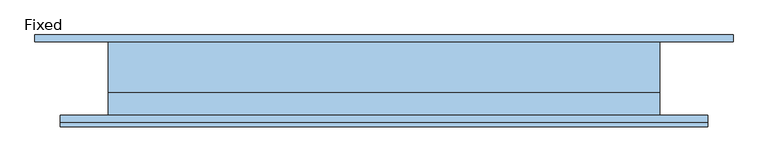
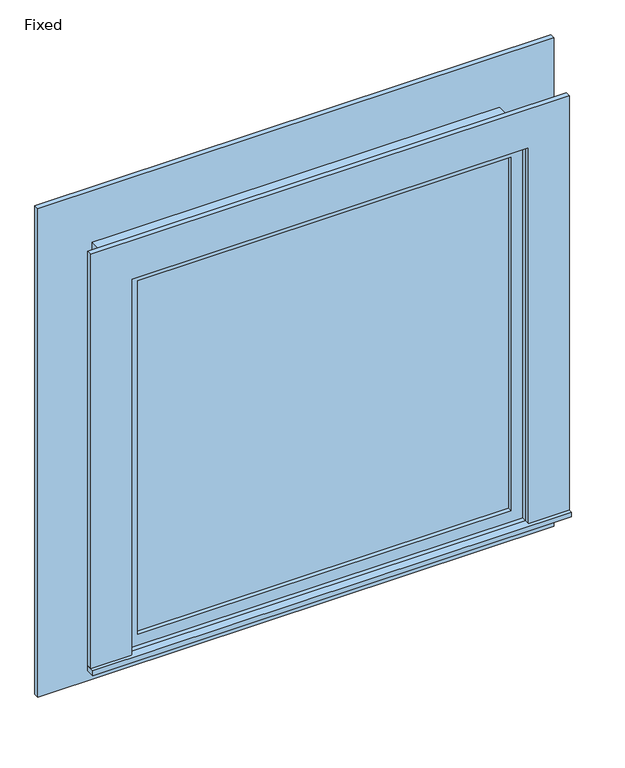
"""IFC4 building model written with IfcOpenShell, lengths in millimetres: window geometry."""

from ifc_helpers import new_model, si_unit, frame, origin, place, context, project, spatial, polyline, outline, extrude, source, transform, mapped, element, save


def fixed_51c72f20(model_context):
    return source(origin(), model_context, "Body", "SweptSolid", [
        extrude(outline(polyline([(-933.45, -133.35), (-933.45, -101.6), (857.25, -101.6), (857.25, -133.35), (-933.45, -133.35)])), frame((0.0, 0.0, 914.4), z_axis=(0.0, 0.0, 1.0), x_axis=(1.0, 0.0, 0.0)), (0.0, 0.0, 1.0), 19.05),
        extrude(outline(polyline([(2419.35, -781.05), (2419.35, 704.85), (933.45, 704.85), (933.45, 857.25), (2571.75, 857.25), (2571.75, -933.45), (933.45, -933.45), (933.45, -781.05), (2419.35, -781.05)])), frame((0.0, -120.65, 0.0), z_axis=(0.0, 1.0, 0.0), x_axis=(0.0, 0.0, 1.0)), (0.0, 0.0, 1.0), 19.05),
        extrude(outline(polyline([(2641.6, 927.1), (2641.6, -1003.3), (711.2, -1003.3), (711.2, 927.1), (2641.6, 927.1)]), holes=[polyline([(2406.65, 692.15), (946.15, 692.15), (946.15, -768.35), (2406.65, -768.35), (2406.65, 692.15)])]), frame((0.0, 101.6, 0.0), z_axis=(0.0, 1.0, 0.0), x_axis=(0.0, 0.0, 1.0)), (0.0, 0.0, 1.0), 19.05),
        extrude(outline(polyline([(660.4, -53.975), (660.4, -66.675), (-736.6, -66.675), (-736.6, -53.975), (660.4, -53.975)])), frame((0.0, 0.0, 977.9), z_axis=(0.0, 0.0, 1.0), x_axis=(1.0, 0.0, 0.0)), (0.0, 0.0, 1.0), 1397.0),
        extrude(outline(polyline([(2419.35, -781.05), (933.45, -781.05), (933.45, 704.85), (2419.35, 704.85), (2419.35, -781.05)]), holes=[polyline([(2374.9, -736.6), (2374.9, 660.4), (977.9, 660.4), (977.9, -736.6), (2374.9, -736.6)])]), frame((0.0, -82.55, 0.0), z_axis=(0.0, 1.0, 0.0), x_axis=(0.0, 0.0, 1.0)), (0.0, 0.0, 1.0), 44.45),
        extrude(outline(polyline([(2438.4, -800.1), (914.4, -800.1), (914.4, 723.9), (2438.4, 723.9), (2438.4, -800.1)]), holes=[polyline([(2406.65, -768.35), (2406.65, 692.15), (946.15, 692.15), (946.15, -768.35), (2406.65, -768.35)])]), frame((0.0, -38.1, 0.0), z_axis=(0.0, 1.0, 0.0), x_axis=(0.0, 0.0, 1.0)), (0.0, 0.0, 1.0), 139.7),
        extrude(outline(polyline([(2438.4, 723.9), (2438.4, -800.1), (914.4, -800.1), (914.4, 723.9), (2438.4, 723.9)]), holes=[polyline([(2419.35, 704.85), (933.45, 704.85), (933.45, -781.05), (2419.35, -781.05), (2419.35, 704.85)])]), frame((0.0, -101.6, 0.0), z_axis=(0.0, 1.0, 0.0), x_axis=(0.0, 0.0, 1.0)), (0.0, 0.0, 1.0), 63.5),
    ])


if __name__ == "__main__":
    model = new_model("IFC4")
    model_context = context("Model", 3, world=origin())
    ifc_project = project(units=[si_unit("LENGTHUNIT", "METRE", prefix="MILLI")], contexts=[model_context])
    site = spatial("IfcSite", under=ifc_project)
    building = spatial("IfcBuilding", under=site)
    placement = place(None, origin())
    fixed_shape = fixed_51c72f20(model_context)
    element("IfcWindow", 1, ObjectType="Fixed : 60\"w x 60\"h", at=placement, inside=building, context=model_context, shape_type="MappedRepresentation", body=[
        mapped(fixed_shape, transform((0.0, 0.0, 0.0), x_axis=(1.0, 0.0, 0.0), y_axis=(0.0, 1.0, 0.0), z_axis=(0.0, 0.0, 1.0))),
    ])
    save(model, "model.ifc")
